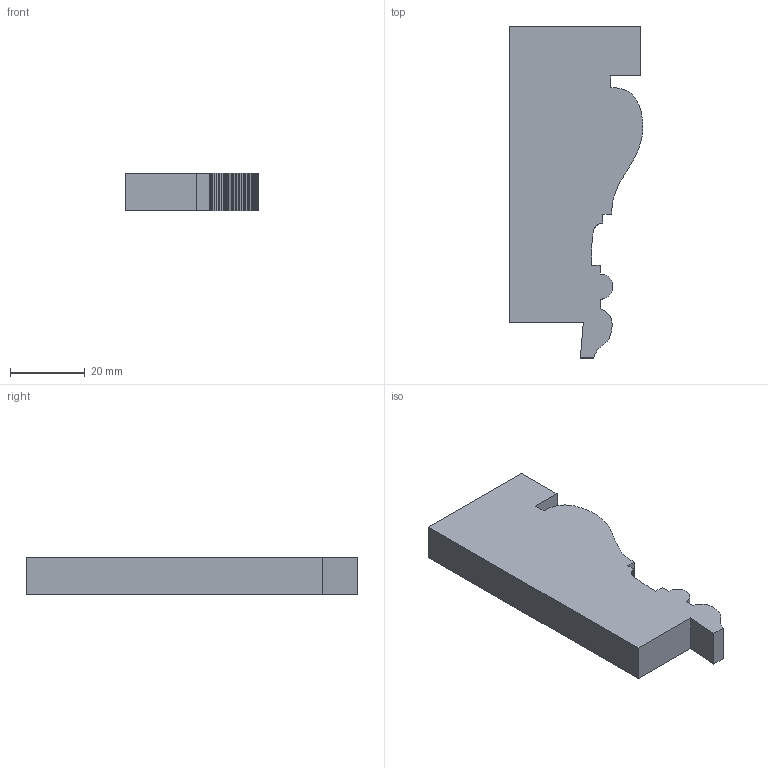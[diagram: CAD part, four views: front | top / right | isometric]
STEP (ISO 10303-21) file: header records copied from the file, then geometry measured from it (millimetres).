
FILE_DESCRIPTION (( 'STEP AP203' ), '1' );
FILE_NAME ('AB310FJ.STEP', '2024-02-17T10:11:35', ( '' ), ( '' ), 'SwSTEP 2.0', 'SolidWorks 2020', '' );
FILE_SCHEMA (( 'CONFIG_CONTROL_DESIGN' ));
Length unit declared in the file: millimetre
Products named in the file (1): AB310FJ
Bounding box: 35.78 x 88.9 x 10 mm (x, y, z)
Volume: 24263.4 mm3; surface area: 7498.9 mm2
Topology: 1 solids, 1 shells, 114 faces, 336 edges, 224 vertices
Faces by surface type: plane 113, cylinder 1
Entity records: 3799 total; most frequent: CARTESIAN_POINT 675, ORIENTED_EDGE 672, DIRECTION 568, EDGE_CURVE 336, VECTOR 334, LINE 334, VERTEX_POINT 224, AXIS2_PLACEMENT_3D 117
